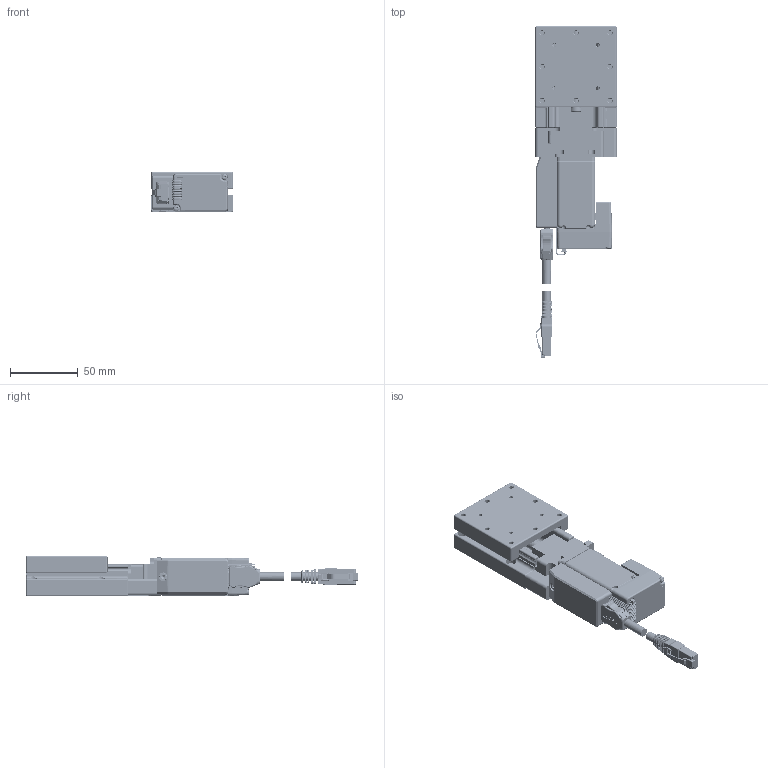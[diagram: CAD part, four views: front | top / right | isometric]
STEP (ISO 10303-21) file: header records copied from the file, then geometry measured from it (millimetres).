
FILE_DESCRIPTION(/* description */ (''),/* implementation_level */ '2;1');
FILE_NAME(/* name */ 'CXS6030-EzI-SERVO ALL-28M',/* time_stamp */ '2022-08-24T21:11:37+02:00',/* author */ (''),/* organization */ (''),/* preprocessor_version */ 'ST-DEVELOPER v16.7',/* originating_system */ 'Solid Edge',/* authorisation */ 'Unknown');
FILE_SCHEMA (('AUTOMOTIVE_DESIGN {1 0 10303 214 3 1 1}'));
Products named in the file (28): CXS6030-EzI-SERVO ALL-28M; CXS6030; Group1^CXS6030-S模糊化; Group2^CXS6030-S模糊化; 09451819000_100744258MOD000C; 09451511525_100534264MOD000A; Motorflansch-ix-001; ISO 4762_M2,5x5_8.8; ISO 4762_M3x10_8.8; EzI-SERVO ALL-28L; M16-EC-028-02-R00; M16-EC-028-01-R00; PCB-1-04; PCB-2-04; M1L-EC-028-03-R00; pan cross head_ks_KS 1023 PC- M2.5 x 8-N; BM12B-GHS-TBT; Condensador 10_17.5; 20PS-JMCS-G-1B-TF(N); 20R-JMCS-G-B-TF(NSA); M1L-MO-028-03-R01; JST-GHR-12V-S_with_terminals; JST_GHR-CONTACT; JST_GHR-12V-S; Gehäuse-ix-001; Platine-ix-001; PCB ix Industrial-001; 09452819001
Assembly tree (39 placements, depth 4):
  CXS6030-EzI-SERVO ALL-28M
    CXS6030
      Group1^CXS6030-S模糊化
      Group2^CXS6030-S模糊化
    09451819000_100744258MOD000C
    09451511525_100534264MOD000A
    Motorflansch-ix-001
    ISO 4762_M2,5x5_8.8
    ISO 4762_M3x10_8.8
    EzI-SERVO ALL-28L
      M16-EC-028-02-R00
      M16-EC-028-01-R00
      PCB-1-04
      PCB-2-04
      M1L-EC-028-03-R00
      pan cross head_ks_KS 1023 PC- M2.5 x 8-N  x2
      BM12B-GHS-TBT
      Condensador 10_17.5
      20PS-JMCS-G-1B-TF(N)
      20R-JMCS-G-B-TF(NSA)
      M1L-MO-028-03-R01
      JST-GHR-12V-S_with_terminals
        JST_GHR-CONTACT  x12
        JST_GHR-12V-S
    Gehäuse-ix-001
    Platine-ix-001
      PCB ix Industrial-001
      09452819001
Bounding box: 60 x 244.43 x 30 mm (x, y, z)
Volume: 173378.6 mm3; surface area: 88789.4 mm2
Topology: 39 solids, 41 shells, 9194 faces, 25505 edges, 16550 vertices
Faces by surface type: plane 6182, cylinder 2068, bspline 596, torus 158, cone 121, sphere 69
Full cylindrical faces by diameter (mm): 0.279 x1, 0.4 x2, 0.5 x14, 0.7 x3, 0.9 x54, 1 x36, 1.4 x54, 1.45 x2, 1.75 x2, 2.013 x2, 2.05 x6, 2.459 x1, 2.5 x7, 2.8 x4, 3 x2, 3.2 x1, 3.3 x8, 3.5 x1, 3.8 x1, 4.5 x4, 4.68 x1, 5 x2, 5.5 x2, 6 x2, 6.2 x1, 6.3 x1, 6.4 x1, 7.8 x4, 8 x2, 10 x1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
Entity records: 310747 total; most frequent: CARTESIAN_POINT 82484, ORIENTED_EDGE 42680, DIRECTION 37114, EDGE_CURVE 21370, LINE 16864, VECTOR 16864, VERTEX_POINT 14150, AXIS2_PLACEMENT_3D 10125
